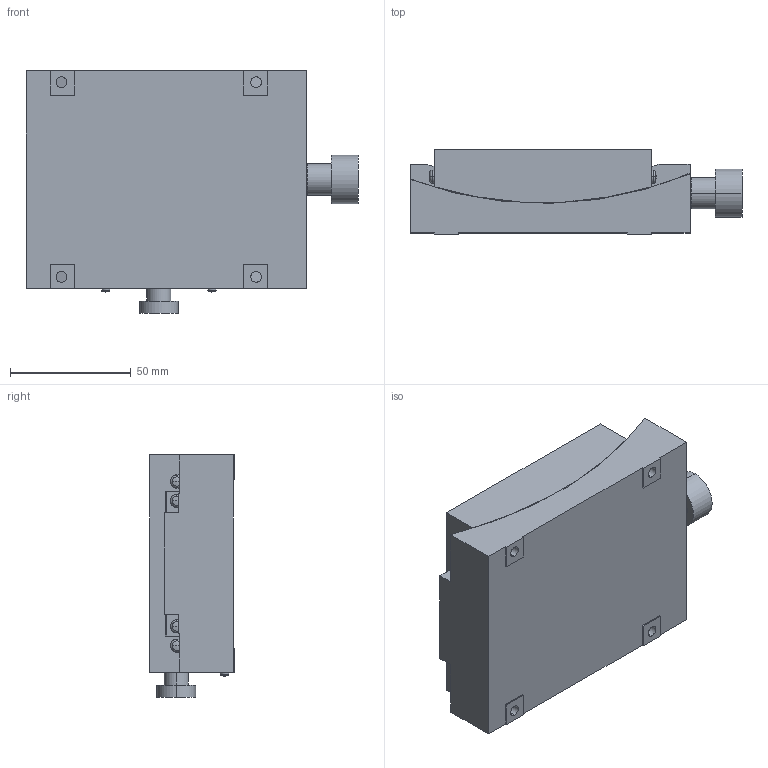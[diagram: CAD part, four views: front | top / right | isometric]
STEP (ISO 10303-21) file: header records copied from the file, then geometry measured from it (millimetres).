
FILE_DESCRIPTION (( 'STEP AP203' ), '1' );
FILE_NAME ('TS-C942.STEP', '2008-02-28T05:06:16', ( '' ), ( '' ), 'SwSTEP 2.0', 'SolidWorks 2007', '' );
FILE_SCHEMA (( 'CONFIG_CONTROL_DESIGN' ));
Length unit declared in the file: millimetre
Products named in the file (3): TS-C942; TS-C942-1_蹬怮椔; TS-C942-2_蹬怮椔
Assembly tree (2 placements, depth 2):
  TS-C942
    TS-C942-2_蹬怮椔
    TS-C942-1_蹬怮椔
Bounding box: 137.5 x 35 x 100.3 mm (x, y, z)
Volume: 336342.4 mm3; surface area: 61803.6 mm2
Topology: 2 solids, 2 shells, 245 faces, 601 edges, 390 vertices
Faces by surface type: cylinder 99, plane 78, cone 28, torus 20, sphere 20
Entity records: 8312 total; most frequent: CARTESIAN_POINT 1993, DIRECTION 1349, ORIENTED_EDGE 1186, EDGE_CURVE 593, AXIS2_PLACEMENT_3D 546, VERTEX_POINT 390, EDGE_LOOP 309, CIRCLE 296
